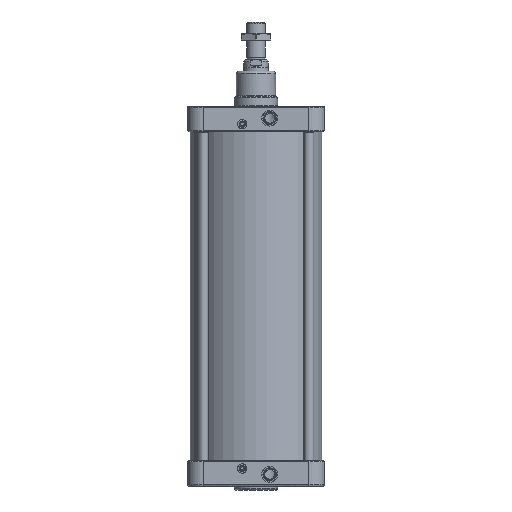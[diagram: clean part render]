
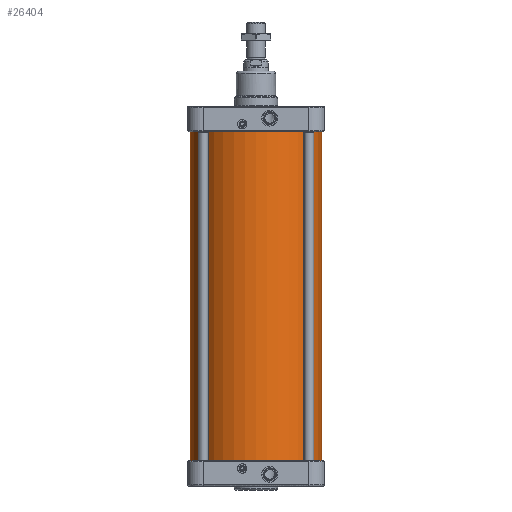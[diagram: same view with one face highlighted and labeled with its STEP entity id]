
A CAD part, front view. The second image highlights one B-rep face of the part: STEP entity #26404.
In plain terms, the highlighted cylindrical face has radius 168 mm (diameter 336 mm), a full revolution.
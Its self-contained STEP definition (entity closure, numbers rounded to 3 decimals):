
#2804=CIRCLE('',#29645,168.);
#2805=CIRCLE('',#29647,168.);
#3478=FACE_BOUND('',#7098,.T.);
#5147=FACE_OUTER_BOUND('',#7097,.T.);
#7097=EDGE_LOOP('',(#22547));
#7098=EDGE_LOOP('',(#22548));
#11979=VERTEX_POINT('',#64759);
#11980=VERTEX_POINT('',#64762);
#15511=EDGE_CURVE('',#11979,#11979,#2804,.T.);
#15512=EDGE_CURVE('',#11980,#11980,#2805,.T.);
#22547=ORIENTED_EDGE('',*,*,#15511,.T.);
#22548=ORIENTED_EDGE('',*,*,#15512,.T.);
#23070=CYLINDRICAL_SURFACE('',#29646,168.);
#26404=ADVANCED_FACE('',(#5147,#3478),#23070,.T.);
#29645=AXIS2_PLACEMENT_3D('',#64760,#36878,#36879);
#29646=AXIS2_PLACEMENT_3D('',#64761,#36880,#36881);
#29647=AXIS2_PLACEMENT_3D('',#64763,#36882,#36883);
#36878=DIRECTION('center_axis',(0.,0.,1.));
#36879=DIRECTION('ref_axis',(-1.,0.,0.));
#36880=DIRECTION('center_axis',(0.,0.,1.));
#36881=DIRECTION('ref_axis',(-1.,0.,0.));
#36882=DIRECTION('center_axis',(0.,0.,-1.));
#36883=DIRECTION('ref_axis',(-1.,0.,0.));
#64759=CARTESIAN_POINT('',(168.,0.,-420.));
#64760=CARTESIAN_POINT('Origin',(0.,0.,-420.));
#64761=CARTESIAN_POINT('Origin',(0.,0.,0.));
#64762=CARTESIAN_POINT('',(168.,0.,420.));
#64763=CARTESIAN_POINT('Origin',(0.,0.,420.));
